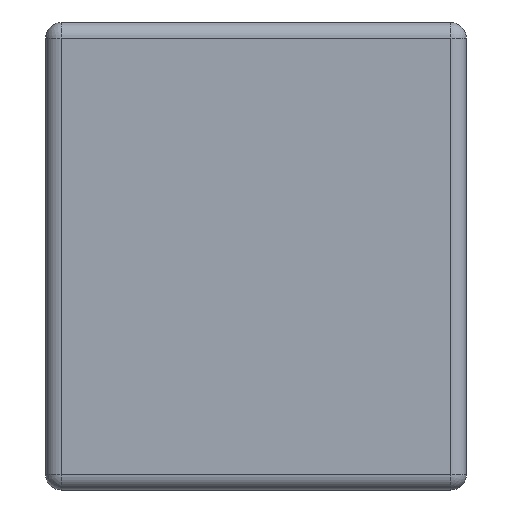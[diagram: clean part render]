
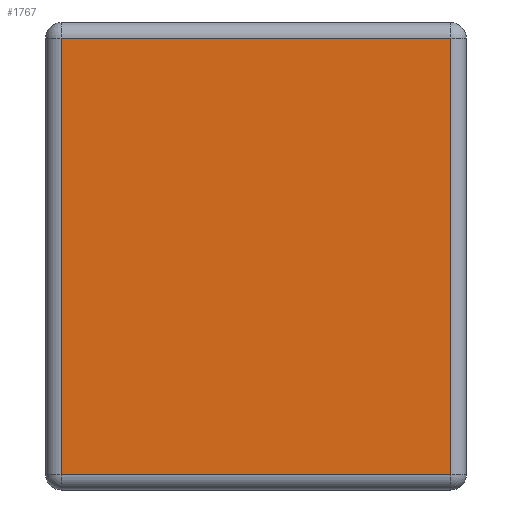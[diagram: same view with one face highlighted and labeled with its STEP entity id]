
A CAD part, left-side view. The second image highlights one B-rep face of the part: STEP entity #1767.
In plain terms, the highlighted planar face has unit normal (-1, 0, 0).
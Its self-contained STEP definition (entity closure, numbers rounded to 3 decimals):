
#139=PLANE('',#2025);
#249=FACE_OUTER_BOUND('',#359,.T.);
#359=EDGE_LOOP('',(#1409,#1410,#1411,#1412));
#468=LINE('',#2767,#662);
#469=LINE('',#2776,#663);
#473=LINE('',#2785,#667);
#477=LINE('',#2794,#671);
#662=VECTOR('',#2282,10.);
#663=VECTOR('',#2293,10.);
#667=VECTOR('',#2303,10.);
#671=VECTOR('',#2313,10.);
#892=VERTEX_POINT('',#2734);
#897=VERTEX_POINT('',#2747);
#903=VERTEX_POINT('',#2762);
#904=VERTEX_POINT('',#2769);
#1079=EDGE_CURVE('',#892,#903,#468,.T.);
#1083=EDGE_CURVE('',#904,#897,#469,.T.);
#1088=EDGE_CURVE('',#903,#904,#473,.T.);
#1093=EDGE_CURVE('',#897,#892,#477,.T.);
#1409=ORIENTED_EDGE('',*,*,#1083,.F.);
#1410=ORIENTED_EDGE('',*,*,#1088,.F.);
#1411=ORIENTED_EDGE('',*,*,#1079,.F.);
#1412=ORIENTED_EDGE('',*,*,#1093,.F.);
#1767=ADVANCED_FACE('',(#249),#139,.F.);
#2025=AXIS2_PLACEMENT_3D('',#2800,#2321,#2322);
#2282=DIRECTION('',(0.,0.,1.));
#2293=DIRECTION('',(0.,0.,-1.));
#2303=DIRECTION('',(0.,-1.,0.));
#2313=DIRECTION('',(0.,1.,0.));
#2321=DIRECTION('center_axis',(1.,0.,0.));
#2322=DIRECTION('ref_axis',(0.,1.,0.));
#2734=CARTESIAN_POINT('',(-0.8,0.375,0.03));
#2747=CARTESIAN_POINT('',(-0.8,-0.375,0.03));
#2762=CARTESIAN_POINT('',(-0.8,0.375,0.87));
#2767=CARTESIAN_POINT('',(-0.8,0.375,0.));
#2769=CARTESIAN_POINT('',(-0.8,-0.375,0.87));
#2776=CARTESIAN_POINT('',(-0.8,-0.375,0.));
#2785=CARTESIAN_POINT('',(-0.8,-0.203,0.87));
#2794=CARTESIAN_POINT('',(-0.8,-0.203,0.03));
#2800=CARTESIAN_POINT('Origin',(-0.8,-0.405,0.));
